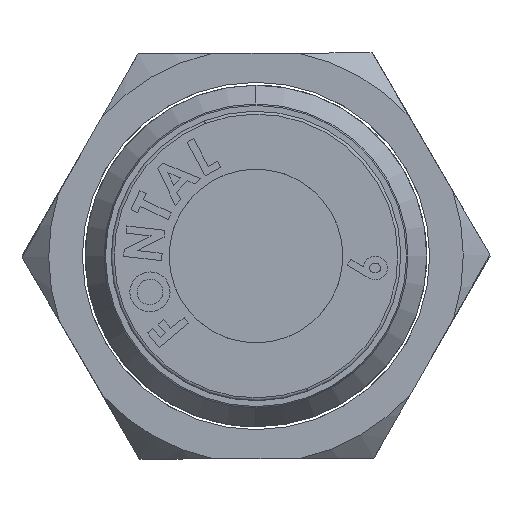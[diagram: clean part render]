
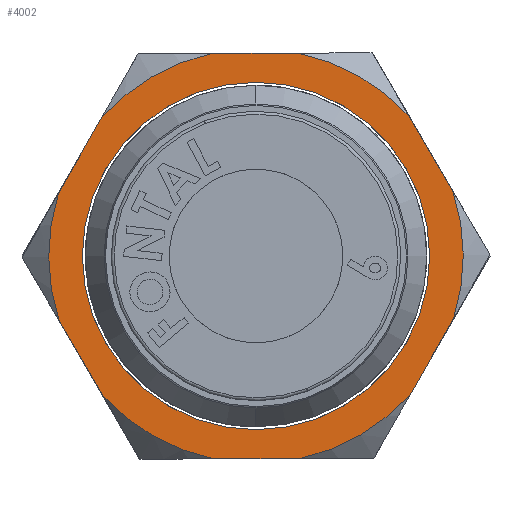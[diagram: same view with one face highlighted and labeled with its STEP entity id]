
A CAD part, left-side view. The second image highlights one B-rep face of the part: STEP entity #4002.
In plain terms, the highlighted planar face has unit normal (-1, 0, 0) as drawn and (0, 0, -1) by its records, which use the part's own axes.
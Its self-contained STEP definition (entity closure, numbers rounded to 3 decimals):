
#40 = AXIS2_PLACEMENT_3D ( 'NONE', #4264, #2980, #644 ) ;
#102 = CIRCLE ( 'NONE', #40, 6. ) ;
#135 = DIRECTION ( 'NONE',  ( 0., 0., -1. ) ) ;
#181 = ORIENTED_EDGE ( 'NONE', *, *, #3441, .T. ) ;
#188 = DIRECTION ( 'NONE',  ( 0., -1., 0. ) ) ;
#198 = CARTESIAN_POINT ( 'NONE',  ( 0., 0., 0. ) ) ;
#302 = AXIS2_PLACEMENT_3D ( 'NONE', #4670, #7602, #7079 ) ;
#303 = VERTEX_POINT ( 'NONE', #1406 ) ;
#422 = ORIENTED_EDGE ( 'NONE', *, *, #6692, .T. ) ;
#457 = VERTEX_POINT ( 'NONE', #979 ) ;
#463 = AXIS2_PLACEMENT_3D ( 'NONE', #4903, #1878, #3707 ) ;
#545 = AXIS2_PLACEMENT_3D ( 'NONE', #198, #4456, #3301 ) ;
#644 = DIRECTION ( 'NONE',  ( 1., 0., 0. ) ) ;
#655 = AXIS2_PLACEMENT_3D ( 'NONE', #7358, #2556, #4385 ) ;
#689 = VECTOR ( 'NONE', #188, 1000. ) ;
#817 = AXIS2_PLACEMENT_3D ( 'NONE', #5386, #6702, #5590 ) ;
#844 = VERTEX_POINT ( 'NONE', #4039 ) ;
#938 = EDGE_CURVE ( 'NONE', #991, #3217, #4057, .T. ) ;
#979 = CARTESIAN_POINT ( 'NONE',  ( 7., -1.502, 0. ) ) ;
#991 = VERTEX_POINT ( 'NONE', #4781 ) ;
#1040 = CARTESIAN_POINT ( 'NONE',  ( 0., 0., 0. ) ) ;
#1166 = EDGE_LOOP ( 'NONE', ( #2069, #1834, #6194, #7220, #7356, #6473, #6129, #3718, #2804, #2982, #2483, #181 ) ) ;
#1229 = CIRCLE ( 'NONE', #302, 7.159 ) ;
#1406 = CARTESIAN_POINT ( 'NONE',  ( -2.199, 6.813, 0. ) ) ;
#1414 = AXIS2_PLACEMENT_3D ( 'NONE', #3731, #5009, #2501 ) ;
#1545 = VERTEX_POINT ( 'NONE', #7388 ) ;
#1640 = CARTESIAN_POINT ( 'NONE',  ( -2.199, -6.813, 0. ) ) ;
#1699 = VERTEX_POINT ( 'NONE', #5222 ) ;
#1750 = CIRCLE ( 'NONE', #1414, 7.159 ) ;
#1805 = CIRCLE ( 'NONE', #7468, 7.159 ) ;
#1834 = ORIENTED_EDGE ( 'NONE', *, *, #6515, .T. ) ;
#1878 = DIRECTION ( 'NONE',  ( 0., 0., -1. ) ) ;
#1921 = EDGE_CURVE ( 'NONE', #5349, #3217, #4047, .T. ) ;
#2024 = EDGE_CURVE ( 'NONE', #991, #5430, #4546, .T. ) ;
#2069 = ORIENTED_EDGE ( 'NONE', *, *, #3841, .F. ) ;
#2111 = CARTESIAN_POINT ( 'NONE',  ( 2.199, 6.813, 0. ) ) ;
#2204 = CARTESIAN_POINT ( 'NONE',  ( -6., 0., 0. ) ) ;
#2259 = VECTOR ( 'NONE', #5385, 1000. ) ;
#2283 = CARTESIAN_POINT ( 'NONE',  ( -7., -4.041, 0. ) ) ;
#2483 = ORIENTED_EDGE ( 'NONE', *, *, #7323, .F. ) ;
#2501 = DIRECTION ( 'NONE',  ( 1., 0., 0. ) ) ;
#2531 = DIRECTION ( 'NONE',  ( 1., 0., 0. ) ) ;
#2556 = DIRECTION ( 'NONE',  ( 0., 0., -1. ) ) ;
#2639 = CARTESIAN_POINT ( 'NONE',  ( 4.801, 5.311, 0. ) ) ;
#2685 = VERTEX_POINT ( 'NONE', #7511 ) ;
#2804 = ORIENTED_EDGE ( 'NONE', *, *, #6023, .F. ) ;
#2980 = DIRECTION ( 'NONE',  ( 0., 0., 1. ) ) ;
#2982 = ORIENTED_EDGE ( 'NONE', *, *, #5087, .T. ) ;
#3156 = VECTOR ( 'NONE', #7128, 1000. ) ;
#3217 = VERTEX_POINT ( 'NONE', #1640 ) ;
#3241 = ORIENTED_EDGE ( 'NONE', *, *, #7172, .T. ) ;
#3301 = DIRECTION ( 'NONE',  ( 1., 0., 0. ) ) ;
#3441 = EDGE_CURVE ( 'NONE', #7573, #844, #1750, .T. ) ;
#3453 = CARTESIAN_POINT ( 'NONE',  ( 7., -4.041, 0. ) ) ;
#3518 = CARTESIAN_POINT ( 'NONE',  ( -7., -1.502, 0. ) ) ;
#3550 = CARTESIAN_POINT ( 'NONE',  ( 4.801, -5.311, 0. ) ) ;
#3552 = LINE ( 'NONE', #7055, #5761 ) ;
#3707 = DIRECTION ( 'NONE',  ( 1., 0., 0. ) ) ;
#3718 = ORIENTED_EDGE ( 'NONE', *, *, #7281, .T. ) ;
#3731 = CARTESIAN_POINT ( 'NONE',  ( 0., 0., 0. ) ) ;
#3841 = EDGE_CURVE ( 'NONE', #457, #844, #4406, .T. ) ;
#3856 = LINE ( 'NONE', #7182, #2259 ) ;
#3895 = CARTESIAN_POINT ( 'NONE',  ( -7., 4.041, 0. ) ) ;
#3980 = AXIS2_PLACEMENT_3D ( 'NONE', #5512, #135, #2531 ) ;
#4002 = ADVANCED_FACE ( 'NONE', ( #7320, #6189 ), #7208, .F. ) ;
#4039 = CARTESIAN_POINT ( 'NONE',  ( 7., 1.502, 0. ) ) ;
#4047 = CIRCLE ( 'NONE', #3980, 7.159 ) ;
#4057 = LINE ( 'NONE', #2283, #4452 ) ;
#4067 = VECTOR ( 'NONE', #6218, 1000. ) ;
#4103 = EDGE_LOOP ( 'NONE', ( #3241, #422 ) ) ;
#4264 = CARTESIAN_POINT ( 'NONE',  ( 0., 0., 0. ) ) ;
#4277 = CIRCLE ( 'NONE', #463, 7.159 ) ;
#4318 = VERTEX_POINT ( 'NONE', #3550 ) ;
#4385 = DIRECTION ( 'NONE',  ( 1., 0., 0. ) ) ;
#4406 = LINE ( 'NONE', #3453, #3156 ) ;
#4415 = CARTESIAN_POINT ( 'NONE',  ( 0., 8.083, 0. ) ) ;
#4452 = VECTOR ( 'NONE', #6534, 1000. ) ;
#4456 = DIRECTION ( 'NONE',  ( 0., 0., 1. ) ) ;
#4546 = CIRCLE ( 'NONE', #655, 7.159 ) ;
#4659 = LINE ( 'NONE', #4415, #4067 ) ;
#4670 = CARTESIAN_POINT ( 'NONE',  ( 0., 0., 0. ) ) ;
#4781 = CARTESIAN_POINT ( 'NONE',  ( -4.801, -5.311, 0. ) ) ;
#4903 = CARTESIAN_POINT ( 'NONE',  ( 0., 0., 0. ) ) ;
#4976 = EDGE_CURVE ( 'NONE', #5349, #4318, #3856, .T. ) ;
#5009 = DIRECTION ( 'NONE',  ( 0., 0., -1. ) ) ;
#5087 = EDGE_CURVE ( 'NONE', #303, #6405, #4277, .T. ) ;
#5153 = EDGE_CURVE ( 'NONE', #2685, #5430, #5519, .T. ) ;
#5222 = CARTESIAN_POINT ( 'NONE',  ( -4.801, 5.311, 0. ) ) ;
#5349 = VERTEX_POINT ( 'NONE', #5924 ) ;
#5385 = DIRECTION ( 'NONE',  ( 0.866, 0.5, 0. ) ) ;
#5386 = CARTESIAN_POINT ( 'NONE',  ( 0., 0., 0. ) ) ;
#5430 = VERTEX_POINT ( 'NONE', #3518 ) ;
#5512 = CARTESIAN_POINT ( 'NONE',  ( 0., 0., 0. ) ) ;
#5519 = LINE ( 'NONE', #3895, #689 ) ;
#5590 = DIRECTION ( 'NONE',  ( 1., 0., 0. ) ) ;
#5761 = VECTOR ( 'NONE', #6968, 1000. ) ;
#5924 = CARTESIAN_POINT ( 'NONE',  ( 2.199, -6.813, 0. ) ) ;
#6023 = EDGE_CURVE ( 'NONE', #303, #1699, #4659, .T. ) ;
#6129 = ORIENTED_EDGE ( 'NONE', *, *, #5153, .F. ) ;
#6189 = FACE_OUTER_BOUND ( 'NONE', #1166, .T. ) ;
#6194 = ORIENTED_EDGE ( 'NONE', *, *, #4976, .F. ) ;
#6218 = DIRECTION ( 'NONE',  ( -0.866, -0.5, 0. ) ) ;
#6405 = VERTEX_POINT ( 'NONE', #2111 ) ;
#6459 = VERTEX_POINT ( 'NONE', #2204 ) ;
#6473 = ORIENTED_EDGE ( 'NONE', *, *, #2024, .T. ) ;
#6515 = EDGE_CURVE ( 'NONE', #457, #4318, #1805, .T. ) ;
#6534 = DIRECTION ( 'NONE',  ( 0.866, -0.5, 0. ) ) ;
#6692 = EDGE_CURVE ( 'NONE', #6459, #1545, #102, .T. ) ;
#6702 = DIRECTION ( 'NONE',  ( 0., 0., 1. ) ) ;
#6968 = DIRECTION ( 'NONE',  ( -0.866, 0.5, 0. ) ) ;
#7055 = CARTESIAN_POINT ( 'NONE',  ( 7., 4.041, 0. ) ) ;
#7079 = DIRECTION ( 'NONE',  ( 1., 0., 0. ) ) ;
#7128 = DIRECTION ( 'NONE',  ( 0., 1., 0. ) ) ;
#7172 = EDGE_CURVE ( 'NONE', #1545, #6459, #7363, .T. ) ;
#7182 = CARTESIAN_POINT ( 'NONE',  ( 0., -8.083, 0. ) ) ;
#7208 = PLANE ( 'NONE',  #817 ) ;
#7220 = ORIENTED_EDGE ( 'NONE', *, *, #1921, .T. ) ;
#7281 = EDGE_CURVE ( 'NONE', #2685, #1699, #1229, .T. ) ;
#7320 = FACE_BOUND ( 'NONE', #4103, .T. ) ;
#7323 = EDGE_CURVE ( 'NONE', #7573, #6405, #3552, .T. ) ;
#7356 = ORIENTED_EDGE ( 'NONE', *, *, #938, .F. ) ;
#7358 = CARTESIAN_POINT ( 'NONE',  ( 0., 0., 0. ) ) ;
#7363 = CIRCLE ( 'NONE', #545, 6. ) ;
#7388 = CARTESIAN_POINT ( 'NONE',  ( 6., 0., 0. ) ) ;
#7468 = AXIS2_PLACEMENT_3D ( 'NONE', #1040, #7736, #7680 ) ;
#7511 = CARTESIAN_POINT ( 'NONE',  ( -7., 1.502, 0. ) ) ;
#7573 = VERTEX_POINT ( 'NONE', #2639 ) ;
#7602 = DIRECTION ( 'NONE',  ( 0., 0., -1. ) ) ;
#7680 = DIRECTION ( 'NONE',  ( 1., 0., 0. ) ) ;
#7736 = DIRECTION ( 'NONE',  ( 0., 0., -1. ) ) ;
